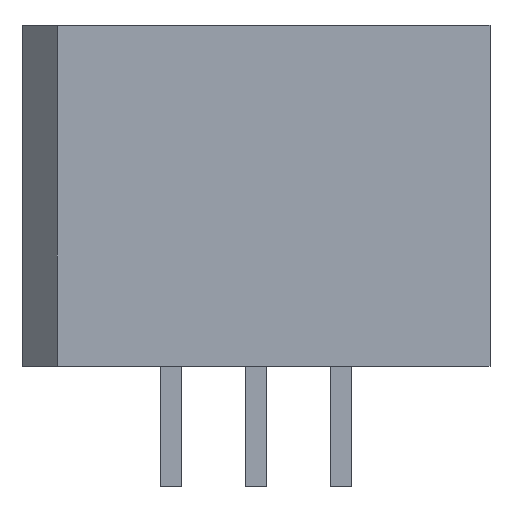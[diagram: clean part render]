
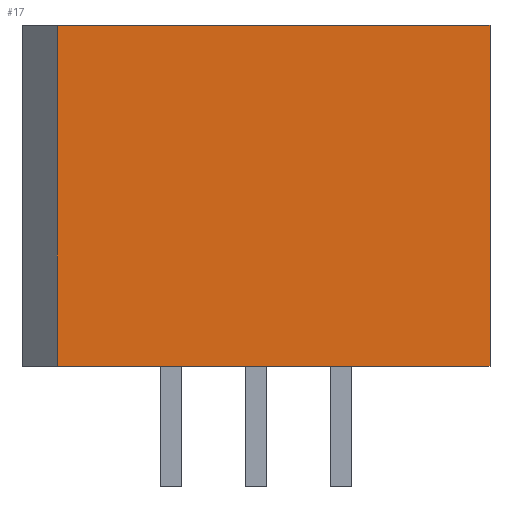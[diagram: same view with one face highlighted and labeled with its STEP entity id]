
A CAD part, left-side view. The second image highlights one B-rep face of the part: STEP entity #17.
In plain terms, the highlighted planar face has unit normal (-1, 0, 0).
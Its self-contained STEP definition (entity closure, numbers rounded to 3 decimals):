
#17 = ADVANCED_FACE('',(#18),#52,.F.);
#18 = FACE_BOUND('',#19,.F.);
#19 = EDGE_LOOP('',(#20,#30,#38,#46));
#20 = ORIENTED_EDGE('',*,*,#21,.F.);
#21 = EDGE_CURVE('',#22,#24,#26,.T.);
#22 = VERTEX_POINT('',#23);
#23 = CARTESIAN_POINT('',(-6.16,-9.54,10.2));
#24 = VERTEX_POINT('',#25);
#25 = CARTESIAN_POINT('',(-6.16,3.399,10.2));
#26 = LINE('',#27,#28);
#27 = CARTESIAN_POINT('',(-6.16,-9.54,10.2));
#28 = VECTOR('',#29,1.);
#29 = DIRECTION('',(-0.,1.,0.));
#30 = ORIENTED_EDGE('',*,*,#31,.F.);
#31 = EDGE_CURVE('',#32,#22,#34,.T.);
#32 = VERTEX_POINT('',#33);
#33 = CARTESIAN_POINT('',(-6.16,-9.54,0.));
#34 = LINE('',#35,#36);
#35 = CARTESIAN_POINT('',(-6.16,-9.54,0.));
#36 = VECTOR('',#37,1.);
#37 = DIRECTION('',(0.,0.,1.));
#38 = ORIENTED_EDGE('',*,*,#39,.T.);
#39 = EDGE_CURVE('',#32,#40,#42,.T.);
#40 = VERTEX_POINT('',#41);
#41 = CARTESIAN_POINT('',(-6.16,3.399,0.));
#42 = LINE('',#43,#44);
#43 = CARTESIAN_POINT('',(-6.16,-9.54,0.));
#44 = VECTOR('',#45,1.);
#45 = DIRECTION('',(-0.,1.,0.));
#46 = ORIENTED_EDGE('',*,*,#47,.T.);
#47 = EDGE_CURVE('',#40,#24,#48,.T.);
#48 = LINE('',#49,#50);
#49 = CARTESIAN_POINT('',(-6.16,3.399,0.));
#50 = VECTOR('',#51,1.);
#51 = DIRECTION('',(0.,0.,1.));
#52 = PLANE('',#53);
#53 = AXIS2_PLACEMENT_3D('',#54,#55,#56);
#54 = CARTESIAN_POINT('',(-6.16,-9.54,0.));
#55 = DIRECTION('',(1.,0.,-0.));
#56 = DIRECTION('',(0.,0.,1.));
